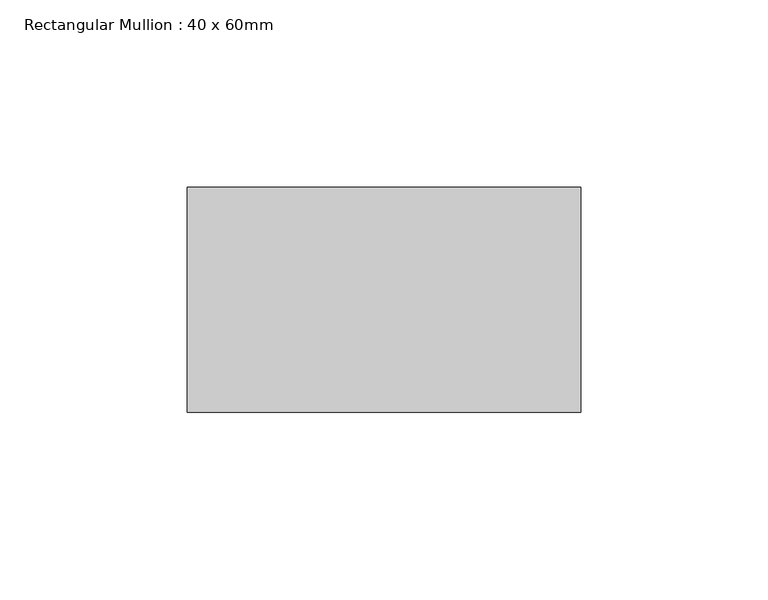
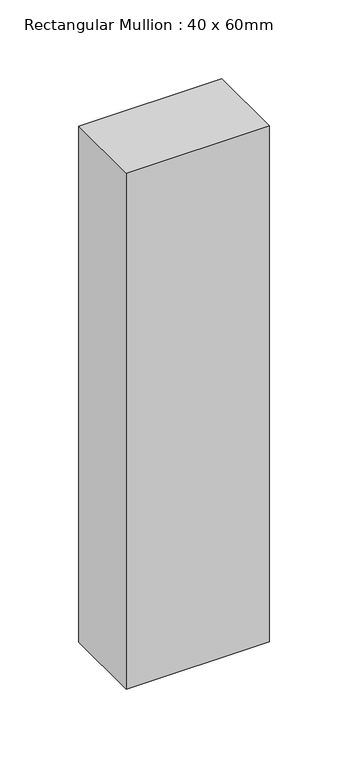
"""IFC4 building model written with IfcOpenShell, lengths in millimetres: member geometry, Rectangular Mullion : 40 x 60mm."""

from ifc_helpers import new_model, si_unit, frame, origin, place, context, project, spatial, polyline, outline, extrude, source, transform, mapped, element, save


def rectangular_mullion_40_x_60mm_cefe8be6(model_context):
    return source(origin(), model_context, "Body", "SweptSolid", [
        extrude(outline(polyline([(80.0, -10.0), (80.0, -70.0), (-25.0, -70.0), (-25.0, -10.0), (80.0, -10.0)])), frame((0.0, 0.0, -400.0), z_axis=(0.0, 0.0, 1.0), x_axis=(1.0, 0.0, 0.0)), (0.0, 0.0, 1.0), 400.0),
    ])


if __name__ == "__main__":
    model = new_model("IFC4")
    model_context = context("Model", 3, world=origin())
    ifc_project = project(units=[si_unit("LENGTHUNIT", "METRE", prefix="MILLI")], contexts=[model_context])
    site = spatial("IfcSite", under=ifc_project)
    building = spatial("IfcBuilding", under=site)
    placement = place(None, origin())
    rectangular_mullion_40_x_60mm_shape = rectangular_mullion_40_x_60mm_cefe8be6(model_context)
    element("IfcMember", 1, ObjectType="Rectangular Mullion : 40 x 60mm", at=placement, inside=building, context=model_context, shape_type="MappedRepresentation", body=[
        mapped(rectangular_mullion_40_x_60mm_shape, transform((0.0, 0.0, 0.0), x_axis=(1.0, 0.0, 0.0), y_axis=(0.0, 1.0, 0.0), z_axis=(0.0, 0.0, 1.0))),
    ])
    save(model, "model.ifc")
